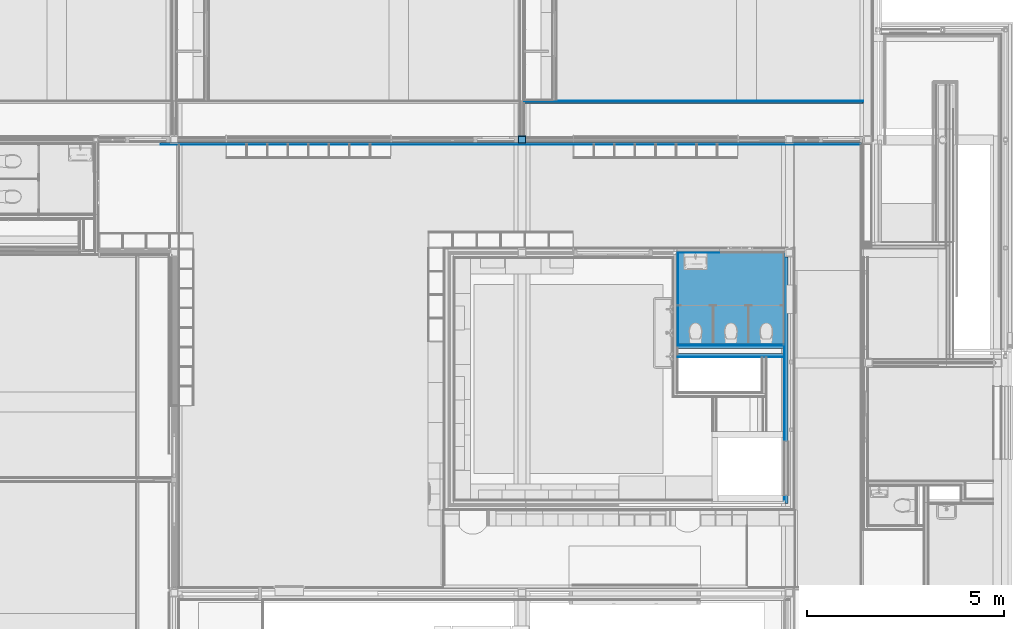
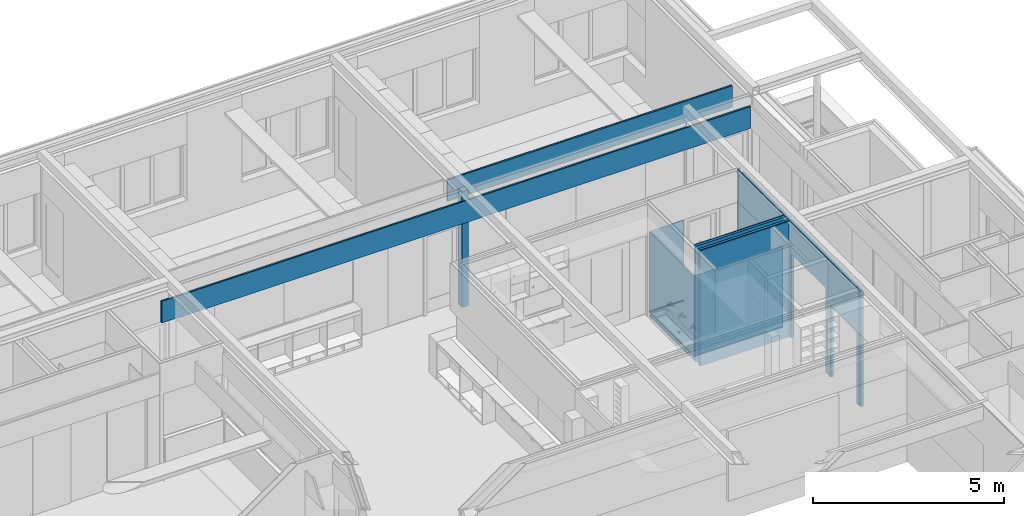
# One storey, part 86 of 137: 21 building element parts, 2 openings, 10 elements without a shape of their own.
"""IFC2X3 building model written with IfcOpenShell, lengths in millimetres."""

from ifc_helpers import new_model, entity, si_unit, converted_unit, derived_unit, money_unit, direction, frame, origin_with_axes, place, context, subcontext, project, spatial, faceted_brep, material, type_object, element, aggregate, save


model = new_model("IFC2X3")

# Units and contexts
model_context = context("Model", 3, precision=0.01, world=origin_with_axes(), true_north=direction((0.0, 1.0)))
body_context = subcontext(model_context, "Body", "Model", "MODEL_VIEW")
ifc_project = project(units=[si_unit("LENGTHUNIT", "METRE", prefix="MILLI"), si_unit("AREAUNIT", "SQUARE_METRE"), si_unit("VOLUMEUNIT", "CUBIC_METRE"), converted_unit("PLANEANGLEUNIT", "DEGREE", entity("IfcPlaneAngleMeasure", 0.0174532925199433), si_unit("PLANEANGLEUNIT", "RADIAN"), dimensions=[0, 0, 0, 0, 0, 0, 0]), money_unit("EUR"), converted_unit("TIMEUNIT", "Year", entity("IfcTimeMeasure", 31556926.0), si_unit("TIMEUNIT", "SECOND"), dimensions=[0, 0, 1, 0, 0, 0, 0]), si_unit("MASSUNIT", "GRAM", prefix="KILO"), si_unit("THERMODYNAMICTEMPERATUREUNIT", "DEGREE_CELSIUS"), si_unit("LUMINOUSINTENSITYUNIT", "LUMEN"), si_unit("ENERGYUNIT", "JOULE", prefix="MEGA"), derived_unit("THERMALCONDUCTANCEUNIT", [(si_unit("POWERUNIT", "WATT"), 1), (si_unit("LENGTHUNIT", "METRE"), -1), (si_unit("THERMODYNAMICTEMPERATUREUNIT", "KELVIN"), -1)]), derived_unit("SPECIFICHEATCAPACITYUNIT", [(si_unit("ENERGYUNIT", "JOULE"), 1), (si_unit("MASSUNIT", "GRAM", prefix="KILO"), -1), (si_unit("THERMODYNAMICTEMPERATUREUNIT", "KELVIN"), -1)]), derived_unit("MASSDENSITYUNIT", [(si_unit("MASSUNIT", "GRAM", prefix="KILO"), 1), (si_unit("VOLUMEUNIT", "CUBIC_METRE"), -1)])], contexts=[model_context])

# Site, building, storey
site_placement = place(None, origin_with_axes())
site = spatial("IfcSite", under=ifc_project, at=site_placement, Name="Site", CompositionType="ELEMENT")
building_placement = place(site_placement, origin_with_axes())
building = spatial("IfcBuilding", under=site, at=building_placement, Name="Naam gebouw", CompositionType="ELEMENT")
storey_placement = place(building_placement, frame((0.0, 0.0, 3960.0), z_axis=(0.0, 0.0, 1.0), x_axis=(1.0, 0.0, 0.0)))
storey = spatial("IfcBuildingStorey", under=building, at=storey_placement, Name="1e verdieping", CompositionType="ELEMENT", Elevation=3960.0)

# Slab, building element part
slab_type = type_object("IfcSlabType", Name="43 Zwevende dekvloer 100", PredefinedType="NOTDEFINED")
slab_placement = place(storey_placement, frame((21664.99903999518, 17114.99778166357, 0.0), z_axis=(0.0, 0.0, 1.0), x_axis=(1.0, 0.0, 0.0)))
slab = element("IfcSlab", 1, at=slab_placement, inside=storey, type_object=slab_type, Name="_Vloer-x", PredefinedType="NOTDEFINED")
ifc_material_1 = material(Name="Isolatie - XPS zwevende dekvloer")
building_element_part_1_placement = place(slab_placement, origin_with_axes())
building_element_part_1 = element("IfcBuildingElementPart", 2, at=building_element_part_1_placement, material=ifc_material_1, Name="Isolatie - XPS zwevende dekvloer", context=body_context, shape_type="Brep", body=[
    faceted_brep([(0.0, 0.0, -100.0000000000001), (2699.999999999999, 0.0, -100.0000000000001), (2699.999999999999, 0.0, -69.99999999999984), (0.0, 0.0, -69.99999999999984), (0.0, 2345.002025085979, -100.0000000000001), (1054.992168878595, 2345.002025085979, -100.0000000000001), (1054.992168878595, 2470.00202955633, -100.0000000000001), (2134.992168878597, 2470.00202955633, -100.0000000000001), (2134.992168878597, 2345.002025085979, -100.0000000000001), (2699.999999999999, 2345.002025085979, -100.0000000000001), (2699.999999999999, 2345.002025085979, -69.99999999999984), (2134.992168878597, 2345.002025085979, -69.99999999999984), (2134.992168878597, 2470.00202955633, -69.99999999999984), (1054.992168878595, 2470.00202955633, -69.99999999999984), (1054.992168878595, 2345.002025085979, -69.99999999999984), (0.0, 2345.002025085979, -69.99999999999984)], [[[0, 1, 2, 3]], [[0, 4, 5, 6, 7, 8, 9, 1]], [[1, 9, 10, 2]], [[3, 2, 10, 11, 12, 13, 14, 15]], [[4, 0, 3, 15]], [[5, 4, 15, 14]], [[6, 5, 14, 13]], [[7, 6, 13, 12]], [[8, 7, 12, 11]], [[9, 8, 11, 10]]]),
])
aggregate(slab, [building_element_part_1])

# Proxy, openings, building element parts
building_element_proxy_type_1 = type_object("IfcBuildingElementProxyType", Name="22 Metal stud 270 oregon pine 270", PredefinedType="NOTDEFINED")
proxy_1_placement = place(storey_placement, frame((24499.99903999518, 19584.9998112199, -100.0000000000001), z_axis=(0.0, 0.0, 1.0), x_axis=(0.0, -1.0, 0.0)))
proxy_1 = element("IfcBuildingElementProxy", 3, at=proxy_1_placement, inside=storey, type_object=building_element_proxy_type_1, Name="_Wand-x")
opening_1_placement = place(proxy_1_placement, frame((3770.002109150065, 0.0, 100.0000000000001), z_axis=(0.0, 0.0, 1.0), x_axis=(1.0, 0.0, 0.0)))
element("IfcOpeningElement", 4, at=opening_1_placement, cuts=proxy_1, Name="_03.01", context=body_context, shape_type="Brep", body=[
    faceted_brep([(-904.9999999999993, -136.0000000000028, 2600.0), (-904.9999999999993, -136.0000000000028, -100.0000000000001), (904.9999999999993, -136.0000000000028, -100.0000000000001), (904.9999999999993, -136.0000000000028, 2600.0), (-904.9999999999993, 136.0000000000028, 2600.0), (-904.9999999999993, 136.0000000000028, -100.0000000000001), (904.9999999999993, 136.0000000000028, -100.0000000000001), (904.9999999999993, 136.0000000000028, 2600.0)], [[[0, 1, 2, 3]], [[4, 5, 1, 0]], [[5, 6, 2, 1]], [[6, 7, 3, 2]], [[7, 4, 0, 3]], [[6, 5, 4, 7]]]),
])
opening_2_placement = place(proxy_1_placement, frame((5615.502109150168, 0.0, 0.0), z_axis=(0.0, 0.0, 1.0), x_axis=(1.0, 0.0, 0.0)))
element("IfcOpeningElement", 5, at=opening_2_placement, cuts=proxy_1, Name="_-", context=body_context, shape_type="Brep", body=[
    faceted_brep([(-680.000000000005, -136.0000000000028, 2300.0), (-680.000000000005, -136.0000000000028, 0.0), (680.000000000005, -136.0000000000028, 0.0), (680.000000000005, -136.0000000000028, 2300.0), (-680.000000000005, 136.0000000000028, 2300.0), (-680.000000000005, 136.0000000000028, 0.0), (680.000000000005, 136.0000000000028, 0.0), (680.000000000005, 136.0000000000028, 2300.0)], [[[0, 1, 2, 3]], [[4, 5, 1, 0]], [[5, 6, 2, 1]], [[6, 7, 3, 2]], [[7, 4, 0, 3]], [[6, 5, 4, 7]]]),
])
ifc_material_2 = material(Name="ALG - LICHTE SCHEIDINGSWAND")
building_element_part_2_placement = place(proxy_1_placement, origin_with_axes())
building_element_part_2 = element("IfcBuildingElementPart", 6, at=building_element_part_2_placement, material=ifc_material_2, Name="ALG - LICHTE SCHEIDINGSWAND", context=body_context, shape_type="Brep", body=[
    faceted_brep([(234.9994182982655, -35.00000000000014, 3695.000029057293), (234.9994182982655, -35.00000000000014, 3699.999999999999), (6510.002029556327, -35.00000000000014, 3700.0), (6510.002029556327, -35.00000000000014, 3695.000029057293), (234.9994182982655, -94.99999999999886, 3699.999999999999), (234.9994182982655, -94.99999999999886, 3695.000029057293), (6510.002029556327, -94.99999999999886, 3700.0), (6510.002029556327, -94.99999999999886, 3695.000029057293)], [[[0, 1, 2, 3]], [[4, 1, 0, 5]], [[1, 4, 6, 2]], [[6, 7, 3, 2]], [[5, 0, 3, 7]], [[4, 5, 7, 6]]]),
    faceted_brep([(4675.002109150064, -35.00000000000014, 0.0), (4675.002109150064, -35.00000000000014, 2700.0), (2865.002109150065, -35.00000000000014, 2700.0), (2865.002109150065, -35.00000000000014, 0.0), (234.9994182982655, -35.00000000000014, 0.0), (234.9994182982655, -35.00000000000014, 3685.000029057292), (6510.002029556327, -35.00000000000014, 3685.000029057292), (6510.002029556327, -35.00000000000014, 0.0), (6295.502109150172, -35.00000000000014, 0.0), (6295.502109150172, -35.00000000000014, 2300.0), (4935.502109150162, -35.00000000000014, 2300.0), (4935.502109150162, -35.00000000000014, 0.0), (4675.002109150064, -109.9999999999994, 0.0), (4675.002109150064, -109.9999999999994, 2700.0), (2865.002109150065, -109.9999999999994, 2700.0), (2865.002109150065, -109.9999999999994, 0.0), (24.99999999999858, -109.9999999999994, 0.0), (24.99999999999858, -35.00000000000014, 0.0), (34.9994182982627, -35.00000000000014, 0.0), (34.9994182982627, -100.0155667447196, 0.0), (234.9994182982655, -100.0155667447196, 0.0), (234.9994182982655, -100.0155667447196, 3685.000029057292), (34.9994182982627, -35.00000000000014, 3685.000029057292), (24.99999999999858, -35.00000000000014, 3685.000029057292), (24.99999999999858, -109.9999999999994, 3685.000029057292), (6510.002029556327, -109.9999999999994, 3685.000029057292), (34.9994182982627, -100.0155667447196, 3685.000029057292), (6510.002029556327, -109.9999999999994, 0.0), (6295.502109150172, -109.9999999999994, 0.0), (6295.502109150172, -109.9999999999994, 2300.0), (4935.502109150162, -109.9999999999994, 2300.0), (4935.502109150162, -109.9999999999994, 0.0)], [[[0, 1, 2, 3, 4, 5, 6, 7, 8, 9, 10, 11]], [[1, 0, 12, 13]], [[2, 1, 13, 14]], [[3, 2, 14, 15]], [[3, 15, 16, 17, 18, 19, 20, 4]], [[4, 20, 21, 5]], [[22, 23, 24, 25, 6, 5, 21, 26]], [[25, 27, 7, 6]], [[8, 7, 27, 28]], [[8, 28, 29, 9]], [[9, 29, 30, 10]], [[10, 30, 31, 11]], [[12, 0, 11, 31]], [[13, 12, 31, 30, 29, 28, 27, 25, 24, 16, 15, 14]], [[23, 17, 16, 24]], [[17, 23, 22, 18]], [[26, 19, 18, 22]], [[20, 19, 26, 21]]]),
    faceted_brep([(34.9994182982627, -94.99999999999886, 3699.999999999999), (34.9994182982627, -35.00000000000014, 3699.999999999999), (24.99999999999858, -35.00000000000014, 3700.0), (24.99999999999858, -94.99999999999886, 3700.0), (34.9994182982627, -35.00000000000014, 3695.000029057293), (34.9994182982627, -94.99999999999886, 3695.000029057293), (24.99999999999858, -35.00000000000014, 3695.000029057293), (24.99999999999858, -94.99999999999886, 3695.000029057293)], [[[0, 1, 2, 3]], [[4, 1, 0, 5]], [[1, 4, 6, 2]], [[6, 7, 3, 2]], [[5, 0, 3, 7]], [[4, 5, 7, 6]]]),
    faceted_brep([(6510.002029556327, -100.9999999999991, 3700.0), (24.99999999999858, -100.9999999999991, 3700.0), (24.99999999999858, -109.9999999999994, 3700.0), (6510.002029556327, -109.9999999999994, 3700.0), (24.99999999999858, -100.9999999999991, 3695.000029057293), (6510.002029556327, -100.9999999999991, 3695.000029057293), (24.99999999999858, -109.9999999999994, 3695.000029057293), (6510.002029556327, -109.9999999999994, 3695.000029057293)], [[[0, 1, 2, 3]], [[4, 1, 0, 5]], [[4, 6, 2, 1]], [[6, 7, 3, 2]], [[5, 0, 3, 7]], [[6, 4, 5, 7]]]),
])
ifc_material_3 = material(Name="Gipsplaat")
building_element_part_3_placement = place(proxy_1_placement, origin_with_axes())
building_element_part_3 = element("IfcBuildingElementPart", 7, at=building_element_part_3_placement, material=ifc_material_3, Name="Gipsplaat", context=body_context, shape_type="Brep", body=[
    faceted_brep([(4675.002109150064, -109.9999999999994, 0.0), (4675.002109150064, -109.9999999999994, 2700.0), (2865.002109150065, -109.9999999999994, 2700.0), (2865.002109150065, -109.9999999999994, 0.0), (100.0000000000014, -109.9999999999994, 0.0), (100.0000000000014, -109.9999999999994, 3685.000029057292), (6435.002029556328, -109.9999999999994, 3685.000029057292), (6435.002029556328, -109.9999999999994, 0.0), (6295.502109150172, -109.9999999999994, 0.0), (6295.502109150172, -109.9999999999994, 2300.0), (4935.502109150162, -109.9999999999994, 2300.0), (4935.502109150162, -109.9999999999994, 0.0), (4675.002109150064, -122.5000000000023, 0.0), (4675.002109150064, -122.5000000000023, 2700.0), (2865.002109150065, -122.5000000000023, 2700.0), (2865.002109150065, -122.5000000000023, 0.0), (100.0000000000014, -122.4999999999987, 0.0), (100.0000000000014, -122.4999999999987, 3685.000029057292), (6435.002029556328, -122.5000000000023, 3685.000029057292), (6435.002029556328, -122.5000000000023, 0.0), (6295.502109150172, -122.5000000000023, 0.0), (6295.502109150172, -122.5000000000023, 2300.0), (4935.502109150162, -122.5000000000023, 2300.0), (4935.502109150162, -122.5000000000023, 0.0)], [[[0, 1, 2, 3, 4, 5, 6, 7, 8, 9, 10, 11]], [[1, 0, 12, 13]], [[2, 1, 13, 14]], [[3, 2, 14, 15]], [[3, 15, 16, 4]], [[4, 16, 17, 5]], [[17, 18, 6, 5]], [[19, 7, 6, 18]], [[8, 7, 19, 20]], [[8, 20, 21, 9]], [[9, 21, 22, 10]], [[10, 22, 23, 11]], [[12, 0, 11, 23]], [[13, 12, 23, 22, 21, 20, 19, 18, 17, 16, 15, 14]]]),
    faceted_brep([(6435.002029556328, -109.9999999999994, 3695.000029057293), (100.0000000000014, -109.9999999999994, 3695.000029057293), (100.0000000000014, -109.9999999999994, 3700.0), (6435.002029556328, -109.9999999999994, 3700.0), (100.0000000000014, -122.4999999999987, 3695.000029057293), (6435.002029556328, -122.5000000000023, 3695.000029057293), (100.0000000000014, -122.4999999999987, 3700.0), (6435.002029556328, -122.5000000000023, 3700.0)], [[[0, 1, 2, 3]], [[4, 1, 0, 5]], [[1, 4, 6, 2]], [[7, 3, 2, 6]], [[5, 0, 3, 7]], [[4, 5, 7, 6]]]),
])
aggregate(proxy_1, [building_element_part_2, building_element_part_3])

# Proxy, building element parts
building_element_proxy_type_2 = type_object("IfcBuildingElementProxyType", Name="22 Metal stud 100 voorzetwand 100", PredefinedType="NOTDEFINED")
proxy_2_placement = place(storey_placement, frame((21539.99903999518, 16789.99778166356, -100.0000000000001), z_axis=(0.0, 0.0, 1.0), x_axis=(1.0, 0.0, 0.0)))
proxy_2 = element("IfcBuildingElementProxy", 8, at=proxy_2_placement, inside=storey, type_object=building_element_proxy_type_2, Name="_Wand-x")
building_element_part_4_placement = place(proxy_2_placement, origin_with_axes())
building_element_part_4 = element("IfcBuildingElementPart", 9, at=building_element_part_4_placement, material=ifc_material_2, Name="ALG - LICHTE SCHEIDINGSWAND", context=body_context, shape_type="Brep", body=[
    faceted_brep([(2824.999999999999, 25.00000000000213, 3695.000029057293), (2824.999999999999, 100.0000000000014, 3695.000029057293), (2824.999999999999, 100.0000000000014, 3700.0), (2824.999999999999, 25.00000000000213, 3700.0), (2760.000000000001, 100.0000000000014, 3695.000029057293), (2760.000000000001, 25.00000000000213, 3695.000029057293), (2760.000000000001, 100.0000000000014, 3685.000029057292), (2824.999999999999, 100.0000000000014, 3685.000029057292), (2824.999999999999, 100.0000000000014, 0.0), (125.0, 100.0000000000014, 0.0), (125.0, 100.0000000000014, 3700.0), (125.0, 24.99999999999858, 3700.0), (125.0, 24.99999999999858, 0.0), (2824.999999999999, 24.99999999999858, 0.0), (2824.999999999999, 25.00000000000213, 3685.000029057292), (2760.000000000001, 25.00000000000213, 3685.000029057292)], [[[0, 1, 2, 3]], [[4, 1, 0, 5]], [[6, 7, 8, 9, 10, 2, 1, 4]], [[3, 2, 10, 11]], [[5, 0, 3, 11, 12, 13, 14, 15]], [[6, 4, 5, 15]], [[14, 7, 6, 15]], [[7, 14, 13, 8]], [[8, 13, 12, 9]], [[10, 9, 12, 11]]]),
])
building_element_part_5_placement = place(proxy_2_placement, origin_with_axes())
building_element_part_5 = element("IfcBuildingElementPart", 10, at=building_element_part_5_placement, material=ifc_material_3, Name="Gipsplaat", context=body_context, shape_type="Brep", body=[
    faceted_brep([(2824.999999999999, 12.49999999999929, 3695.000029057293), (2824.999999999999, 25.00000000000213, 3695.000029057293), (2824.999999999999, 25.00000000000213, 3700.0), (2824.999999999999, 12.49999999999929, 3700.0), (2760.000000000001, 24.99999999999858, 3695.000029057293), (2760.000000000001, 12.49999999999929, 3695.000029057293), (2760.000000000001, 24.99999999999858, 3685.000029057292), (2824.999999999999, 25.00000000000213, 3685.000029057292), (2824.999999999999, 24.99999999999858, 0.0), (125.0, 24.99999999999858, 0.0), (125.0, 24.99999999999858, 3700.0), (125.0, 12.49999999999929, 3700.0), (125.0, 12.49999999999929, 0.0), (2824.999999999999, 12.49999999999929, 0.0), (2824.999999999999, 12.49999999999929, 3685.000029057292), (2760.000000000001, 12.49999999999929, 3685.000029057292)], [[[0, 1, 2, 3]], [[4, 1, 0, 5]], [[6, 7, 8, 9, 10, 2, 1, 4]], [[3, 2, 10, 11]], [[5, 0, 3, 11, 12, 13, 14, 15]], [[6, 4, 5, 15]], [[14, 7, 6, 15]], [[7, 14, 13, 8]], [[8, 13, 12, 9]], [[10, 9, 12, 11]]]),
])
building_element_part_6_placement = place(proxy_2_placement, origin_with_axes())
building_element_part_6 = element("IfcBuildingElementPart", 11, at=building_element_part_6_placement, material=ifc_material_3, Name="Gipsplaat", context=body_context, shape_type="Brep", body=[
    faceted_brep([(2824.999999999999, 0.0, 3695.000029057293), (2824.999999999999, 12.49999999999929, 3695.000029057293), (2824.999999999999, 12.49999999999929, 3700.0), (2824.999999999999, 0.0, 3700.0), (2760.000000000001, 12.49999999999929, 3695.000029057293), (2760.000000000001, 0.0, 3695.000029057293), (2760.000000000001, 12.49999999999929, 3685.000029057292), (2824.999999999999, 12.49999999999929, 3685.000029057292), (2824.999999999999, 12.49999999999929, 0.0), (125.0, 12.49999999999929, 0.0), (125.0, 12.49999999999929, 3700.0), (125.0, 0.0, 3700.0), (125.0, 0.0, 0.0), (2824.999999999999, 0.0, 0.0), (2824.999999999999, 0.0, 3685.000029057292), (2760.000000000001, 0.0, 3685.000029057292)], [[[0, 1, 2, 3]], [[4, 1, 0, 5]], [[6, 7, 8, 9, 10, 2, 1, 4]], [[3, 2, 10, 11]], [[5, 0, 3, 11, 12, 13, 14, 15]], [[6, 4, 5, 15]], [[14, 7, 6, 15]], [[7, 14, 13, 8]], [[8, 13, 12, 9]], [[10, 9, 12, 11]]]),
])
aggregate(proxy_2, [building_element_part_4, building_element_part_5, building_element_part_6])

# Column, building element parts
column_type = type_object("IfcColumnType", Name="200X200X10 200 x 200", PredefinedType="COLUMN")
column_placement = place(storey_placement, frame((17699.99942456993, 22324.99984707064, -100.0000000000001), z_axis=(0.0, 0.0, 1.0), x_axis=(1.0, 0.0, 0.0)))
column = element("IfcColumn", 12, at=column_placement, inside=storey, type_object=column_type, Name="28_Kolom-x", ObjectType="COLUMN")
ifc_material_4 = material(Name="Beton gewapend C")
building_element_part_7_placement = place(column_placement, origin_with_axes())
building_element_part_7 = element("IfcBuildingElementPart", 13, at=building_element_part_7_placement, material=ifc_material_4, Name="Beton gewapend C", context=body_context, shape_type="Brep", body=[
    faceted_brep([(-89.99999999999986, 89.99999999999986, 3675.000029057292), (89.99999999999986, 89.99999999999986, 3675.000029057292), (89.99999999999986, 89.99999999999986, 0.0), (-89.99999999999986, 89.99999999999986, 0.0), (89.99999999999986, -89.99999999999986, 3675.000029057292), (-89.99999999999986, -89.99999999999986, 3675.000029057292), (89.99999999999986, -89.99999999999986, 0.0), (-89.99999999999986, -89.99999999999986, 0.0)], [[[0, 1, 2, 3]], [[4, 1, 0, 5]], [[1, 4, 6, 2]], [[2, 6, 7, 3]], [[5, 0, 3, 7]], [[4, 5, 7, 6]]]),
    faceted_brep([(89.99999999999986, -89.99999999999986, 3695.000029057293), (89.99999999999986, 89.99999999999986, 3695.000029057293), (89.99999999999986, 89.99999999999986, 3699.999999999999), (89.99999999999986, -89.99999999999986, 3699.999999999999), (-89.99999999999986, 89.99999999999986, 3695.000029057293), (-89.99999999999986, -89.99999999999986, 3695.000029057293), (-89.99999999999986, 89.99999999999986, 3699.999999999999), (-89.99999999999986, -89.99999999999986, 3699.999999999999)], [[[0, 1, 2, 3]], [[4, 1, 0, 5]], [[1, 4, 6, 2]], [[2, 6, 7, 3]], [[5, 0, 3, 7]], [[4, 5, 7, 6]]]),
])
ifc_material_5 = material(Name="Metaal - Staal C")
building_element_part_8_placement = place(column_placement, origin_with_axes())
building_element_part_8 = element("IfcBuildingElementPart", 14, at=building_element_part_8_placement, material=ifc_material_5, Name="Metaal - Staal C", context=body_context, shape_type="Brep", body=[
    faceted_brep([(-100.0000000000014, -100.0000000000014, 0.0), (100.0000000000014, -100.0000000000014, 0.0), (100.0000000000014, -100.0000000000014, 3699.999999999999), (-100.0000000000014, -100.0000000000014, 3699.999999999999), (-100.0000000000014, 100.0000000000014, 0.0), (100.0000000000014, 100.0000000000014, 0.0), (-89.99999999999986, -89.99999999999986, 0.0), (89.99999999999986, -89.99999999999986, 0.0), (89.99999999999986, 89.99999999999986, 0.0), (-89.99999999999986, 89.99999999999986, 0.0), (100.0000000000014, 100.0000000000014, 3699.999999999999), (-100.0000000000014, 100.0000000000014, 3699.999999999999), (-89.99999999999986, -89.99999999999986, 3699.999999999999), (-89.99999999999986, 89.99999999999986, 3699.999999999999), (89.99999999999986, 89.99999999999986, 3699.999999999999), (89.99999999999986, -89.99999999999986, 3699.999999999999)], [[[0, 1, 2, 3]], [[0, 4, 5, 1], [6, 7, 8, 9]], [[1, 5, 10, 2]], [[3, 2, 10, 11], [12, 13, 14, 15]], [[4, 0, 3, 11]], [[5, 4, 11, 10]], [[7, 6, 12, 15]], [[8, 7, 15, 14]], [[9, 8, 14, 13]], [[6, 9, 13, 12]]]),
])
aggregate(column, [building_element_part_7, building_element_part_8])

# Proxy, building element parts
building_element_proxy_type_3 = type_object("IfcBuildingElementProxyType", Name="22 Metal stud 62.5 plafond 63", PredefinedType="NOTDEFINED")
proxy_3_placement = place(storey_placement, frame((26323.50000000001, 22199.97621406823, 2600.0), z_axis=(0.0, 0.0, 1.0), x_axis=(-1.0, 0.0, 0.0)))
proxy_3 = element("IfcBuildingElementProxy", 15, at=proxy_3_placement, inside=storey, type_object=building_element_proxy_type_3, Name="_Wand-x")
building_element_part_9_placement = place(proxy_3_placement, origin_with_axes())
building_element_part_9 = element("IfcBuildingElementPart", 16, at=building_element_part_9_placement, material=ifc_material_3, Name="Gipsplaat", context=body_context, shape_type="Brep", body=[
    faceted_brep([(17338.50001303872, -12.50000000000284, 11.99999999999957), (17816.74627791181, -12.50000000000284, 11.99999999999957), (17816.74627791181, -12.49999999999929, 700.0000000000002), (0.0, -12.49999999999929, 700.0000000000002), (0.0, -12.49999999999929, 0.0), (17338.50001303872, -12.50000000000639, 0.0), (17338.50001297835, 0.0, 11.99999999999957), (17816.74627791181, 0.0, 11.99999999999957), (17816.74627791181, 0.0, 700.0000000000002), (0.0, 0.0, 700.0000000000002), (0.0, 0.0, 0.0), (17338.50001297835, 0.0, 0.0)], [[[0, 1, 2, 3, 4, 5]], [[1, 0, 6, 7]], [[1, 7, 8, 2]], [[3, 2, 8, 9]], [[4, 3, 9, 10]], [[11, 5, 4, 10]], [[0, 5, 11, 6]], [[6, 11, 10, 9, 8, 7]]]),
])
building_element_part_10_placement = place(proxy_3_placement, origin_with_axes())
building_element_part_10 = element("IfcBuildingElementPart", 17, at=building_element_part_10_placement, material=ifc_material_2, Name="ALG - LICHTE SCHEIDINGSWAND", context=body_context, shape_type="Brep", body=[
    faceted_brep([(17816.74627791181, -62.5, 700.0000000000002), (17816.74627791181, -12.49999999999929, 700.0000000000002), (-12.49999999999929, -12.49999999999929, 700.0000000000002), (-12.49999999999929, -62.5, 700.0000000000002), (17816.74627791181, -62.5, 0.0), (17816.74627791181, -12.50000000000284, 0.0), (-12.49999999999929, -12.49999999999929, 0.0), (-12.49999999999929, -62.5, 0.0)], [[[0, 1, 2, 3]], [[0, 4, 5, 1]], [[1, 5, 6, 2]], [[3, 2, 6, 7]], [[4, 0, 3, 7]], [[5, 4, 7, 6]]]),
])
aggregate(proxy_3, [building_element_part_9, building_element_part_10])

proxy_4_placement = place(storey_placement, frame((17762.49942456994, 23324.99984707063, 2600.0), z_axis=(0.0, 0.0, 1.0), x_axis=(1.0, 0.0, 0.0)))
proxy_4 = element("IfcBuildingElementProxy", 18, at=proxy_4_placement, inside=storey, type_object=building_element_proxy_type_3, Name="_Wand-x")
building_element_part_11_placement = place(proxy_4_placement, origin_with_axes())
building_element_part_11 = element("IfcBuildingElementPart", 19, at=building_element_part_11_placement, material=ifc_material_3, Name="Gipsplaat", context=body_context, shape_type="Brep", body=[
    faceted_brep([(8623.500575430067, -12.49999999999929, 11.99999999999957), (8623.500575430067, 0.0, 11.99999999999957), (8623.500575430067, 0.0, 700.0000000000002), (8623.500575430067, -12.49999999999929, 700.0000000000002), (0.0, 0.0, 11.99999999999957), (0.0, -12.49999999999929, 11.99999999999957), (0.0, 0.0, 700.0000000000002), (0.0, -12.49999999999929, 700.0000000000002)], [[[0, 1, 2, 3]], [[4, 1, 0, 5]], [[1, 4, 6, 2]], [[7, 3, 2, 6]], [[5, 0, 3, 7]], [[4, 5, 7, 6]]]),
])
building_element_part_12_placement = place(proxy_4_placement, origin_with_axes())
building_element_part_12 = element("IfcBuildingElementPart", 20, at=building_element_part_12_placement, material=ifc_material_2, Name="ALG - LICHTE SCHEIDINGSWAND", context=body_context, shape_type="Brep", body=[
    faceted_brep([(8623.500575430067, -62.5, 11.99999999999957), (8623.500575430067, -12.49999999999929, 11.99999999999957), (8623.500575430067, -12.49999999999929, 700.0000000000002), (8623.500575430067, -62.5, 700.0000000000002), (0.0, -12.49999999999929, 11.99999999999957), (0.0, -62.5, 11.99999999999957), (0.0, -12.49999999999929, 700.0000000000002), (0.0, -62.5, 700.0000000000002)], [[[0, 1, 2, 3]], [[4, 1, 0, 5]], [[1, 4, 6, 2]], [[7, 3, 2, 6]], [[5, 0, 3, 7]], [[4, 5, 7, 6]]]),
])
aggregate(proxy_4, [building_element_part_11, building_element_part_12])

proxy_5_placement = place(storey_placement, frame((24499.99903999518, 17114.99778166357, -100.0000000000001), z_axis=(0.0, 0.0, 1.0), x_axis=(-1.0, 0.0, 0.0)))
proxy_5 = element("IfcBuildingElementProxy", 21, at=proxy_5_placement, inside=storey, type_object=building_element_proxy_type_2, Name="_Wand-x")
building_element_part_13_placement = place(proxy_5_placement, origin_with_axes())
building_element_part_13 = element("IfcBuildingElementPart", 22, at=building_element_part_13_placement, material=ifc_material_2, Name="ALG - LICHTE SCHEIDINGSWAND", context=body_context, shape_type="Brep", body=[
    faceted_brep([(135.0000000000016, 100.0000000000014, 3695.000029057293), (135.0000000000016, 24.99999999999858, 3695.000029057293), (135.0000000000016, 24.99999999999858, 3700.0), (135.0000000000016, 100.0000000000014, 3700.0), (199.9999999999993, 24.99999999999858, 3695.000029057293), (199.9999999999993, 100.0000000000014, 3695.000029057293), (199.9999999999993, 24.99999999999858, 3685.000029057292), (135.0000000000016, 24.99999999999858, 3685.000029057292), (135.0000000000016, 24.99999999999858, 0.0), (2835.000000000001, 24.99999999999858, 0.0), (2835.000000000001, 24.99999999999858, 3700.0), (2835.000000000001, 100.0000000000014, 3700.0), (2835.000000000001, 100.0000000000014, 0.0), (135.0000000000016, 100.0000000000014, 0.0), (135.0000000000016, 100.0000000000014, 3685.000029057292), (199.9999999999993, 100.0000000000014, 3685.000029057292)], [[[0, 1, 2, 3]], [[4, 1, 0, 5]], [[6, 7, 8, 9, 10, 2, 1, 4]], [[10, 11, 3, 2]], [[5, 0, 3, 11, 12, 13, 14, 15]], [[6, 4, 5, 15]], [[14, 7, 6, 15]], [[7, 14, 13, 8]], [[12, 9, 8, 13]], [[9, 12, 11, 10]]]),
])
building_element_part_14_placement = place(proxy_5_placement, origin_with_axes())
building_element_part_14 = element("IfcBuildingElementPart", 23, at=building_element_part_14_placement, material=ifc_material_3, Name="Gipsplaat", context=body_context, shape_type="Brep", body=[
    faceted_brep([(135.0000000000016, 12.49999999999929, 3695.000029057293), (135.0000000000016, 0.0, 3695.000029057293), (135.0000000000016, 0.0, 3700.0), (135.0000000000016, 12.49999999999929, 3700.0), (199.9999999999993, 0.0, 3695.000029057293), (199.9999999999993, 12.49999999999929, 3695.000029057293), (199.9999999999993, 0.0, 3685.000029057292), (135.0000000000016, 0.0, 3685.000029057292), (135.0000000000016, 0.0, 0.0), (2835.000000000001, 0.0, 0.0), (2835.000000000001, 0.0, 3700.0), (2835.000000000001, 12.49999999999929, 3700.0), (2835.000000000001, 12.49999999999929, 0.0), (135.0000000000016, 12.49999999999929, 0.0), (135.0000000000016, 12.49999999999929, 3685.000029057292), (199.9999999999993, 12.49999999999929, 3685.000029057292)], [[[0, 1, 2, 3]], [[4, 1, 0, 5]], [[6, 7, 8, 9, 10, 2, 1, 4]], [[10, 11, 3, 2]], [[5, 0, 3, 11, 12, 13, 14, 15]], [[6, 4, 5, 15]], [[14, 7, 6, 15]], [[7, 14, 13, 8]], [[12, 9, 8, 13]], [[9, 12, 11, 10]]]),
])
building_element_part_15_placement = place(proxy_5_placement, origin_with_axes())
building_element_part_15 = element("IfcBuildingElementPart", 24, at=building_element_part_15_placement, material=ifc_material_3, Name="Gipsplaat", context=body_context, shape_type="Brep", body=[
    faceted_brep([(135.0000000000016, 24.99999999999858, 3695.000029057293), (135.0000000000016, 12.49999999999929, 3695.000029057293), (135.0000000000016, 12.49999999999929, 3700.0), (135.0000000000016, 24.99999999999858, 3700.0), (199.9999999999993, 12.49999999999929, 3695.000029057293), (199.9999999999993, 24.99999999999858, 3695.000029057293), (199.9999999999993, 12.49999999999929, 3685.000029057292), (135.0000000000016, 12.49999999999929, 3685.000029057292), (135.0000000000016, 12.49999999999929, 0.0), (2835.000000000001, 12.49999999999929, 0.0), (2835.000000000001, 12.49999999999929, 3700.0), (2835.000000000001, 24.99999999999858, 3700.0), (2835.000000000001, 24.99999999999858, 0.0), (135.0000000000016, 24.99999999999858, 0.0), (135.0000000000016, 24.99999999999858, 3685.000029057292), (199.9999999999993, 24.99999999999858, 3685.000029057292)], [[[0, 1, 2, 3]], [[4, 1, 0, 5]], [[6, 7, 8, 9, 10, 2, 1, 4]], [[10, 11, 3, 2]], [[5, 0, 3, 11, 12, 13, 14, 15]], [[6, 4, 5, 15]], [[14, 7, 6, 15]], [[7, 14, 13, 8]], [[12, 9, 8, 13]], [[9, 12, 11, 10]]]),
])
aggregate(proxy_5, [building_element_part_13, building_element_part_14, building_element_part_15])

# Proxy, building element part
building_element_proxy_type_4 = type_object("IfcBuildingElementProxyType", Name="42 Tegelwerk 2600+ 12 x 2600", PredefinedType="NOTDEFINED")
proxy_6_placement = place(storey_placement, frame((22719.99120887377, 19439.9998112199, 0.0), z_axis=(0.0, 0.0, 1.0), x_axis=(-1.0, 0.0, 0.0)))
proxy_6 = element("IfcBuildingElementProxy", 25, at=proxy_6_placement, inside=storey, type_object=building_element_proxy_type_4, Name="_Wand-x")
ifc_material_6 = material(Name="21 STO lijmlaag")
building_element_part_16_placement = place(proxy_6_placement, origin_with_axes())
building_element_part_16 = element("IfcBuildingElementPart", 26, at=building_element_part_16_placement, material=ifc_material_6, Name="21 STO lijmlaag", context=body_context, shape_type="Brep", body=[
    faceted_brep([(1054.992176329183, -19.99999552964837, 50.00000596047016), (1054.992176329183, -19.99999552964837, 2600.0), (0.0, -19.99999552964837, 2600.0), (0.0, -19.99999552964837, 49.99999999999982), (1054.992176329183, -13.00000447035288, 2600.0), (1054.992176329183, -14.99999850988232, 50.00000596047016), (1054.992176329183, -13.00000447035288, 50.00000596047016), (0.0, -13.00000447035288, 2600.0), (0.0, -13.00000447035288, 49.99999999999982), (0.0, -14.99999850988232, 50.00000596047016)], [[[0, 1, 2, 3]], [[4, 1, 0, 5, 6]], [[1, 4, 7, 2]], [[7, 8, 9, 3, 2]], [[5, 0, 3, 9]], [[6, 5, 9, 8]], [[4, 6, 8, 7]]]),
])

proxy_7_placement = place(storey_placement, frame((21684.99903999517, 19439.9998112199, 0.0), z_axis=(0.0, 0.0, 1.0), x_axis=(0.0, -1.0, 0.0)))
proxy_7 = element("IfcBuildingElementProxy", 27, at=proxy_7_placement, inside=storey, type_object=building_element_proxy_type_4, Name="_Wand-x")
building_element_part_17_placement = place(proxy_7_placement, origin_with_axes())
building_element_part_17 = element("IfcBuildingElementPart", 28, at=building_element_part_17_placement, material=ifc_material_6, Name="21 STO lijmlaag", context=body_context, shape_type="Brep", body=[
    faceted_brep([(-13.00000447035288, -13.00000447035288, 49.99999999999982), (-13.00000447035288, -13.00000447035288, 2600.0), (2325.002037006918, -13.00000447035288, 2600.0), (2325.002037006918, -13.00000447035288, 50.00000596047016), (-13.00000447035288, -19.99999552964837, 2600.0), (-13.00000447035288, -14.99999850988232, 49.99999999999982), (-13.00000447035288, -19.99999552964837, 49.99999999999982), (2325.002037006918, -19.99999552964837, 2600.0), (2325.002037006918, -14.99999850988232, 50.00000596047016), (2325.002037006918, -19.99999552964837, 50.00000596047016)], [[[0, 1, 2, 3]], [[4, 1, 0, 5, 6]], [[1, 4, 7, 2]], [[8, 3, 2, 7, 9]], [[5, 0, 3, 8]], [[6, 5, 8, 9]], [[4, 6, 9, 7]]]),
])

# Proxy, building element parts
proxy_8_placement = place(storey_placement, frame((21684.99903999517, 17134.99778166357, 0.0), z_axis=(0.0, 0.0, 1.0), x_axis=(1.0, 0.0, 0.0)))
proxy_8 = element("IfcBuildingElementProxy", 29, at=proxy_8_placement, inside=storey, type_object=building_element_proxy_type_4, Name="_Wand-x")
ifc_material_7 = material(Name="48 vloeivloer Bolidt")
building_element_part_18_placement = place(proxy_8_placement, origin_with_axes())
building_element_part_18 = element("IfcBuildingElementPart", 30, at=building_element_part_18_placement, material=ifc_material_7, Name="48 vloeivloer Bolidt", context=body_context, shape_type="Brep", body=[
    faceted_brep([(-14.99999850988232, -14.99999850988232, 0.0), (-14.99999850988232, -14.99999850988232, 50.00000596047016), (2680.000007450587, -14.99999850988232, 50.00000596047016), (2680.000007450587, -14.99999850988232, 0.0), (-14.99999850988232, -19.99998360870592, 50.00000596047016), (-14.99999850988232, -19.99998360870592, 0.0), (2680.000007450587, -19.99998360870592, 50.00000596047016), (2680.000007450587, -19.99998360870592, 0.0)], [[[0, 1, 2, 3]], [[4, 1, 0, 5]], [[1, 4, 6, 2]], [[7, 3, 2, 6]], [[5, 0, 3, 7]], [[4, 5, 7, 6]]]),
])
building_element_part_19_placement = place(proxy_8_placement, origin_with_axes())
building_element_part_19 = element("IfcBuildingElementPart", 31, at=building_element_part_19_placement, material=ifc_material_6, Name="21 STO lijmlaag", context=body_context, shape_type="Brep", body=[
    faceted_brep([(-13.00000447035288, -13.00000447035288, 49.99999999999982), (-13.00000447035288, -13.00000447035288, 2600.0), (2680.000007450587, -13.00000447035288, 2600.0), (2680.000007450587, -13.00000447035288, 50.00000596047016), (-13.00000447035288, -19.99999552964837, 2600.0), (-13.00000447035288, -14.99999850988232, 49.99999999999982), (-13.00000447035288, -19.99999552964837, 49.99999999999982), (2680.000007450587, -19.99999552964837, 2600.0), (2680.000007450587, -14.99999850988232, 50.00000596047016), (2680.000007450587, -19.99999552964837, 50.00000596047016)], [[[0, 1, 2, 3]], [[4, 1, 0, 5, 6]], [[1, 4, 7, 2]], [[8, 3, 2, 7, 9]], [[5, 0, 3, 8]], [[6, 5, 8, 9]], [[4, 6, 9, 7]]]),
])
aggregate(proxy_8, [building_element_part_18, building_element_part_19])

# Building element part
building_element_part_20_placement = place(proxy_6_placement, origin_with_axes())
building_element_part_20 = element("IfcBuildingElementPart", 32, at=building_element_part_20_placement, material=ifc_material_7, Name="48 vloeivloer Bolidt", context=body_context, shape_type="Brep", body=[
    faceted_brep([(1054.992176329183, -19.99998360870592, 0.0), (1054.992176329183, -19.99998360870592, 50.00000596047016), (0.0, -19.99998360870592, 50.00000596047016), (0.0, -19.99998360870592, 0.0), (1054.992176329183, -14.99999850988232, 0.0), (1054.992176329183, -14.99999850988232, 50.00000596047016), (0.0, -14.99999850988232, 50.00000596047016), (0.0, -14.99999850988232, 0.0)], [[[0, 1, 2, 3]], [[1, 0, 4, 5]], [[1, 5, 6, 2]], [[6, 7, 3, 2]], [[4, 0, 3, 7]], [[5, 4, 7, 6]]]),
])

aggregate(proxy_6, [building_element_part_16, building_element_part_20])

building_element_part_21_placement = place(proxy_7_placement, origin_with_axes())
building_element_part_21 = element("IfcBuildingElementPart", 33, at=building_element_part_21_placement, material=ifc_material_7, Name="48 vloeivloer Bolidt", context=body_context, shape_type="Brep", body=[
    faceted_brep([(-14.99999850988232, -14.99999850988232, 0.0), (-14.99999850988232, -14.99999850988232, 50.00000596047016), (2325.002037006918, -14.99999850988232, 50.00000596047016), (2325.002037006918, -14.99999850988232, 0.0), (-14.99999850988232, -19.99998360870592, 50.00000596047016), (-14.99999850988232, -19.99998360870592, 0.0), (2325.002037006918, -19.99998360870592, 50.00000596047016), (2325.002037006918, -19.99998360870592, 0.0)], [[[0, 1, 2, 3]], [[4, 1, 0, 5]], [[1, 4, 6, 2]], [[7, 3, 2, 6]], [[5, 0, 3, 7]], [[4, 5, 7, 6]]]),
])

aggregate(proxy_7, [building_element_part_17, building_element_part_21])

save(model, "model.ifc")
